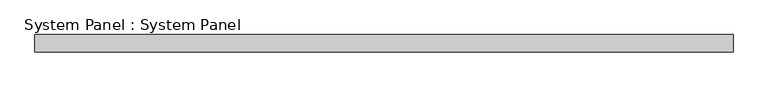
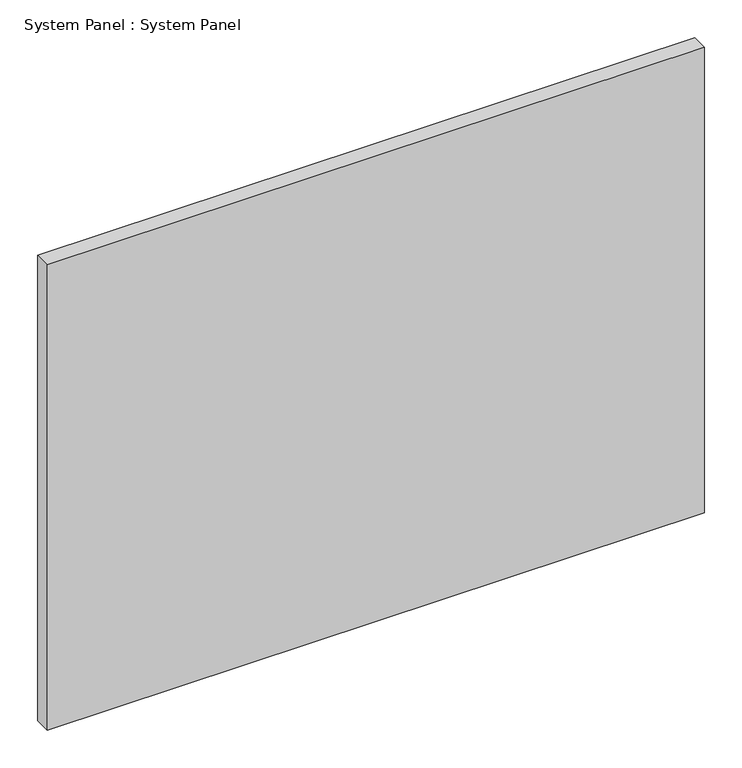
"""IFC4 building model written with IfcOpenShell, lengths in millimetres: plate geometry, System Panel : System Panel."""

from ifc_helpers import new_model, si_unit, origin, origin_with_axes, place, context, project, spatial, polyline, outline, extrude, source, transform, mapped, element, save


def system_panel_system_panel_5d59a0b6(model_context):
    return source(origin(), model_context, "Body", "SweptSolid", [
        extrude(outline(polyline([(504.825, 19.05), (-504.825, 19.05), (-504.825, 44.45), (504.825, 44.45), (504.825, 19.05)])), origin_with_axes(), (0.0, 0.0, 1.0), 755.65),
    ])


if __name__ == "__main__":
    model = new_model("IFC4")
    model_context = context("Model", 3, world=origin())
    ifc_project = project(units=[si_unit("LENGTHUNIT", "METRE", prefix="MILLI")], contexts=[model_context])
    site = spatial("IfcSite", under=ifc_project)
    building = spatial("IfcBuilding", under=site)
    placement = place(None, origin())
    system_panel_system_panel_shape = system_panel_system_panel_5d59a0b6(model_context)
    element("IfcPlate", 1, ObjectType="System Panel : System Panel", at=placement, inside=building, context=model_context, shape_type="MappedRepresentation", body=[
        mapped(system_panel_system_panel_shape, transform((0.0, 0.0, 0.0), x_axis=(1.0, 0.0, 0.0), y_axis=(0.0, 1.0, 0.0), z_axis=(0.0, 0.0, 1.0))),
    ])
    save(model, "model.ifc")
